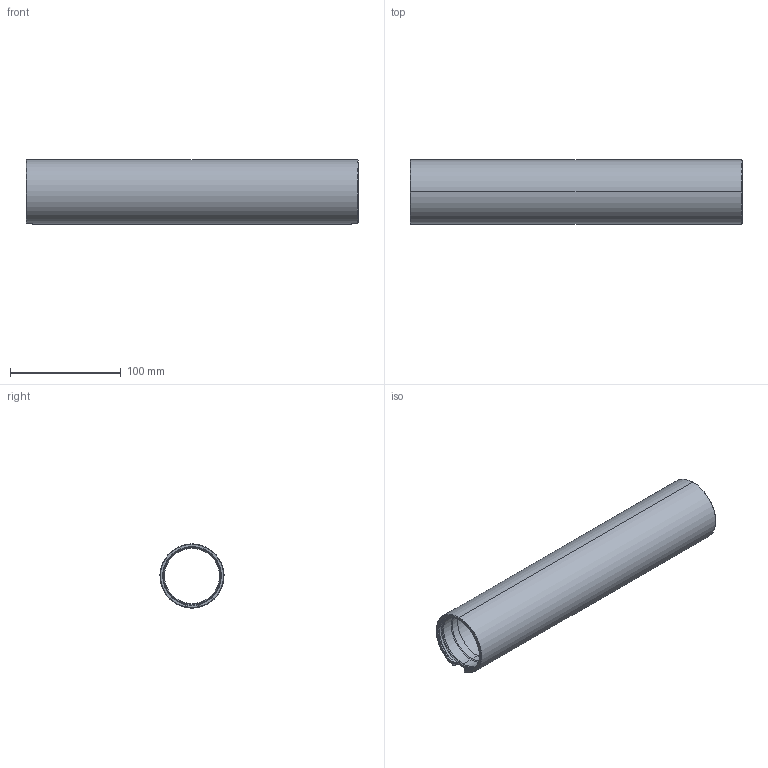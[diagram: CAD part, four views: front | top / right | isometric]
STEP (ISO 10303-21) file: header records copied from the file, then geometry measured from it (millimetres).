
FILE_DESCRIPTION (( 'STEP AP214' ), '1' );
FILE_NAME ('BR-100534-300_RevB.STEP', '2024-09-16T22:49:40', ( '' ), ( '' ), 'SwSTEP 2.0', 'SolidWorks 2024', '' );
FILE_SCHEMA (( 'AUTOMOTIVE_DESIGN' ));
Length unit declared in the file: millimetre
Products named in the file (1): BR-100534-300_RevB
Bounding box: 300 x 57.96 x 58 mm (x, y, z)
Volume: 191906.6 mm3; surface area: 103639.7 mm2
Topology: 1 solids, 1 shells, 112 faces, 274 edges, 166 vertices
Faces by surface type: bspline 32, cylinder 28, cone 24, plane 16, torus 12
Entity records: 7010 total; most frequent: CARTESIAN_POINT 4660, ORIENTED_EDGE 548, DIRECTION 390, EDGE_CURVE 274, AXIS2_PLACEMENT_3D 167, VERTEX_POINT 166, B_SPLINE_CURVE_WITH_KNOTS 128, EDGE_LOOP 116
